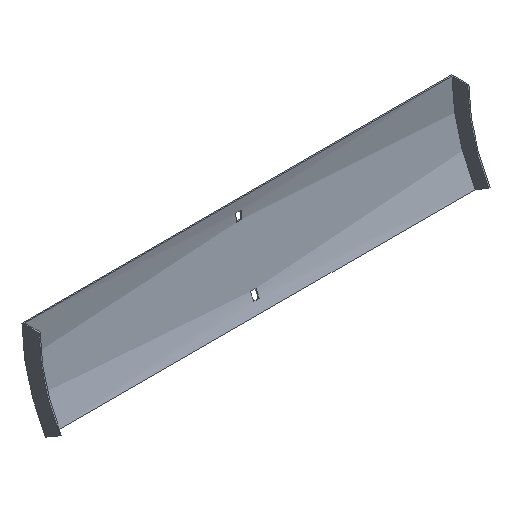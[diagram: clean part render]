
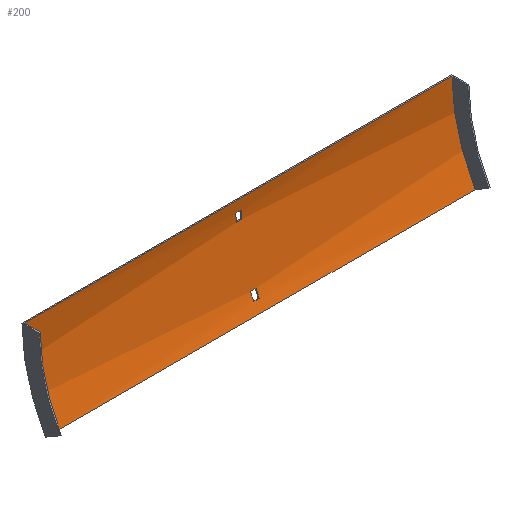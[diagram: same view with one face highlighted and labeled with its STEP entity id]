
A CAD part, isometric view. The second image highlights one B-rep face of the part: STEP entity #200.
In plain terms, the highlighted cylindrical face has radius 204 mm (diameter 408 mm), a partial arc.
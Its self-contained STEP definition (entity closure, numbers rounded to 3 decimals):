
#1 = CIRCLE ( 'NONE', #62, 204. ) ;
#2 = VECTOR ( 'NONE', #139, 1000. ) ;
#13 = ORIENTED_EDGE ( 'NONE', *, *, #35, .T. ) ;
#19 = FACE_OUTER_BOUND ( 'NONE', #140, .T. ) ;
#20 = ORIENTED_EDGE ( 'NONE', *, *, #293, .T. ) ;
#22 = AXIS2_PLACEMENT_3D ( 'NONE', #398, #583, #356 ) ;
#33 = ORIENTED_EDGE ( 'NONE', *, *, #447, .T. ) ;
#35 = EDGE_CURVE ( 'NONE', #230, #242, #195, .T. ) ;
#47 = EDGE_CURVE ( 'NONE', #260, #269, #470, .T. ) ;
#62 = AXIS2_PLACEMENT_3D ( 'NONE', #585, #208, #164 ) ;
#63 = AXIS2_PLACEMENT_3D ( 'NONE', #147, #331, #519 ) ;
#68 = ORIENTED_EDGE ( 'NONE', *, *, #577, .F. ) ;
#79 = VERTEX_POINT ( 'NONE', #294 ) ;
#87 = LINE ( 'NONE', #132, #418 ) ;
#93 = CARTESIAN_POINT ( 'NONE',  ( -3.25, -23.137, -91.431 ) ) ;
#98 = AXIS2_PLACEMENT_3D ( 'NONE', #145, #491, #532 ) ;
#109 = CARTESIAN_POINT ( 'NONE',  ( 252., -28.831, -102. ) ) ;
#111 = LINE ( 'NONE', #295, #229 ) ;
#131 = EDGE_LOOP ( 'NONE', ( #484, #13, #469, #504 ) ) ;
#132 = CARTESIAN_POINT ( 'NONE',  ( 253.5, -23.137, -91.431 ) ) ;
#133 = EDGE_CURVE ( 'NONE', #414, #551, #1, .T. ) ;
#135 = AXIS2_PLACEMENT_3D ( 'NONE', #567, #155, #475 ) ;
#136 = LINE ( 'NONE', #224, #239 ) ;
#139 = DIRECTION ( 'NONE',  ( 1., 0., 0. ) ) ;
#140 = EDGE_LOOP ( 'NONE', ( #205, #68, #33, #20 ) ) ;
#143 = ORIENTED_EDGE ( 'NONE', *, *, #388, .F. ) ;
#145 = CARTESIAN_POINT ( 'NONE',  ( -3.25, -205.5, 0. ) ) ;
#146 = CIRCLE ( 'NONE', #98, 204. ) ;
#147 = CARTESIAN_POINT ( 'NONE',  ( -252., -205.5, 0. ) ) ;
#148 = VECTOR ( 'NONE', #188, 1000. ) ;
#155 = DIRECTION ( 'NONE',  ( 1., 0., 0. ) ) ;
#163 = DIRECTION ( 'NONE',  ( -1., 0., 0. ) ) ;
#164 = DIRECTION ( 'NONE',  ( 0., 0., 1. ) ) ;
#185 = LINE ( 'NONE', #553, #2 ) ;
#186 = AXIS2_PLACEMENT_3D ( 'NONE', #556, #326, #529 ) ;
#188 = DIRECTION ( 'NONE',  ( 1., 0., 0. ) ) ;
#195 = CIRCLE ( 'NONE', #135, 204. ) ;
#196 = CIRCLE ( 'NONE', #560, 204. ) ;
#200 = ADVANCED_FACE ( 'NONE', ( #449, #19, #298 ), #210, .F. ) ;
#205 = ORIENTED_EDGE ( 'NONE', *, *, #47, .F. ) ;
#208 = DIRECTION ( 'NONE',  ( -1., 0., 0. ) ) ;
#210 = CYLINDRICAL_SURFACE ( 'NONE', #22, 204. ) ;
#220 = ORIENTED_EDGE ( 'NONE', *, *, #455, .F. ) ;
#223 = VERTEX_POINT ( 'NONE', #358 ) ;
#224 = CARTESIAN_POINT ( 'NONE',  ( 252., -1.5, 0. ) ) ;
#229 = VECTOR ( 'NONE', #163, 1000. ) ;
#230 = VERTEX_POINT ( 'NONE', #93 ) ;
#235 = CARTESIAN_POINT ( 'NONE',  ( 252., -28.831, -102. ) ) ;
#239 = VECTOR ( 'NONE', #416, 1000. ) ;
#242 = VERTEX_POINT ( 'NONE', #314 ) ;
#249 = CARTESIAN_POINT ( 'NONE',  ( 3.25, -19.269, -83.272 ) ) ;
#260 = VERTEX_POINT ( 'NONE', #544 ) ;
#267 = VECTOR ( 'NONE', #433, 1000. ) ;
#269 = VERTEX_POINT ( 'NONE', #456 ) ;
#276 = EDGE_CURVE ( 'NONE', #551, #230, #87, .T. ) ;
#283 = ORIENTED_EDGE ( 'NONE', *, *, #325, .F. ) ;
#293 = EDGE_CURVE ( 'NONE', #79, #269, #136, .T. ) ;
#294 = CARTESIAN_POINT ( 'NONE',  ( 252., -1.5, 0. ) ) ;
#295 = CARTESIAN_POINT ( 'NONE',  ( 253.5, -1.853, -12. ) ) ;
#298 = FACE_BOUND ( 'NONE', #131, .T. ) ;
#305 = EDGE_CURVE ( 'NONE', #242, #414, #185, .T. ) ;
#314 = CARTESIAN_POINT ( 'NONE',  ( -3.25, -19.269, -83.272 ) ) ;
#321 = VERTEX_POINT ( 'NONE', #323 ) ;
#323 = CARTESIAN_POINT ( 'NONE',  ( -3.25, -1.853, -12. ) ) ;
#325 = EDGE_CURVE ( 'NONE', #223, #501, #443, .T. ) ;
#326 = DIRECTION ( 'NONE',  ( 1., 0., 0. ) ) ;
#331 = DIRECTION ( 'NONE',  ( 1., 0., 0. ) ) ;
#344 = EDGE_CURVE ( 'NONE', #501, #411, #196, .T. ) ;
#356 = DIRECTION ( 'NONE',  ( 0., 0., 1. ) ) ;
#358 = CARTESIAN_POINT ( 'NONE',  ( -3.25, -2.584, -21. ) ) ;
#373 = VERTEX_POINT ( 'NONE', #235 ) ;
#388 = EDGE_CURVE ( 'NONE', #321, #223, #146, .T. ) ;
#398 = CARTESIAN_POINT ( 'NONE',  ( 253.5, -205.5, 0. ) ) ;
#403 = EDGE_LOOP ( 'NONE', ( #143, #220, #426, #283 ) ) ;
#411 = VERTEX_POINT ( 'NONE', #425 ) ;
#414 = VERTEX_POINT ( 'NONE', #249 ) ;
#415 = CARTESIAN_POINT ( 'NONE',  ( 3.25, -2.584, -21. ) ) ;
#416 = DIRECTION ( 'NONE',  ( -1., 0., 0. ) ) ;
#418 = VECTOR ( 'NONE', #466, 1000. ) ;
#425 = CARTESIAN_POINT ( 'NONE',  ( 3.25, -1.853, -12. ) ) ;
#426 = ORIENTED_EDGE ( 'NONE', *, *, #344, .F. ) ;
#429 = CIRCLE ( 'NONE', #186, 204. ) ;
#433 = DIRECTION ( 'NONE',  ( -1., 0., 0. ) ) ;
#438 = LINE ( 'NONE', #109, #267 ) ;
#443 = LINE ( 'NONE', #606, #148 ) ;
#447 = EDGE_CURVE ( 'NONE', #373, #79, #429, .T. ) ;
#449 = FACE_BOUND ( 'NONE', #403, .T. ) ;
#455 = EDGE_CURVE ( 'NONE', #411, #321, #111, .T. ) ;
#456 = CARTESIAN_POINT ( 'NONE',  ( -252., -1.5, 0. ) ) ;
#466 = DIRECTION ( 'NONE',  ( -1., 0., 0. ) ) ;
#469 = ORIENTED_EDGE ( 'NONE', *, *, #305, .T. ) ;
#470 = CIRCLE ( 'NONE', #63, 204. ) ;
#471 = DIRECTION ( 'NONE',  ( 0., 0., -1. ) ) ;
#475 = DIRECTION ( 'NONE',  ( 0., 0., -1. ) ) ;
#483 = CARTESIAN_POINT ( 'NONE',  ( 3.25, -23.137, -91.431 ) ) ;
#484 = ORIENTED_EDGE ( 'NONE', *, *, #276, .T. ) ;
#487 = DIRECTION ( 'NONE',  ( 1., 0., 0. ) ) ;
#491 = DIRECTION ( 'NONE',  ( -1., 0., 0. ) ) ;
#501 = VERTEX_POINT ( 'NONE', #415 ) ;
#504 = ORIENTED_EDGE ( 'NONE', *, *, #133, .T. ) ;
#519 = DIRECTION ( 'NONE',  ( 0., 0., 1. ) ) ;
#529 = DIRECTION ( 'NONE',  ( 0., 0., 1. ) ) ;
#532 = DIRECTION ( 'NONE',  ( 0., 0., 1. ) ) ;
#544 = CARTESIAN_POINT ( 'NONE',  ( -252., -28.831, -102. ) ) ;
#551 = VERTEX_POINT ( 'NONE', #483 ) ;
#553 = CARTESIAN_POINT ( 'NONE',  ( 253.5, -19.269, -83.272 ) ) ;
#556 = CARTESIAN_POINT ( 'NONE',  ( 252., -205.5, 0. ) ) ;
#560 = AXIS2_PLACEMENT_3D ( 'NONE', #604, #487, #471 ) ;
#567 = CARTESIAN_POINT ( 'NONE',  ( -3.25, -205.5, 0. ) ) ;
#577 = EDGE_CURVE ( 'NONE', #373, #260, #438, .T. ) ;
#583 = DIRECTION ( 'NONE',  ( -1., 0., 0. ) ) ;
#585 = CARTESIAN_POINT ( 'NONE',  ( 3.25, -205.5, 0. ) ) ;
#604 = CARTESIAN_POINT ( 'NONE',  ( 3.25, -205.5, 0. ) ) ;
#606 = CARTESIAN_POINT ( 'NONE',  ( 253.5, -2.584, -21. ) ) ;
